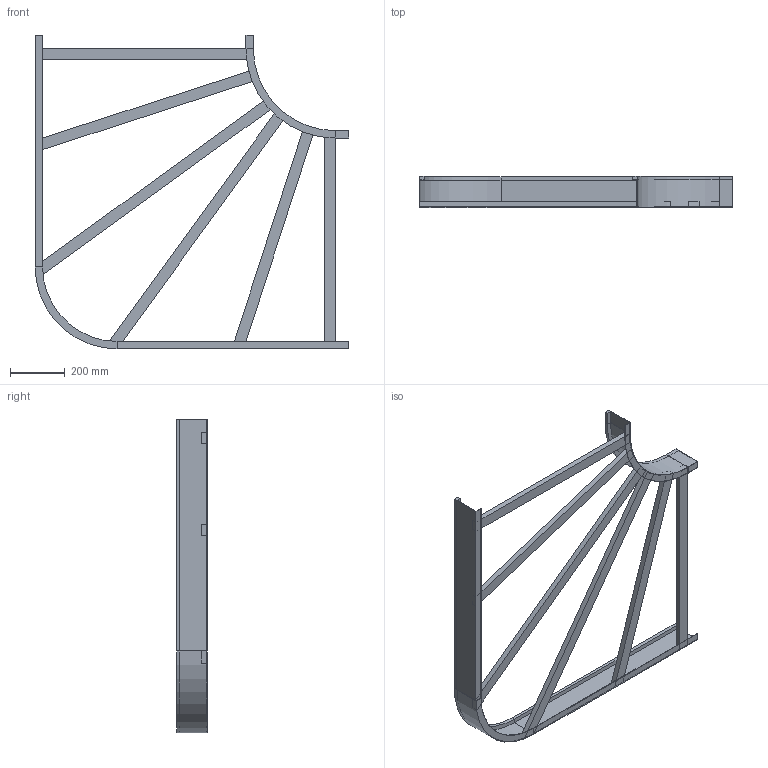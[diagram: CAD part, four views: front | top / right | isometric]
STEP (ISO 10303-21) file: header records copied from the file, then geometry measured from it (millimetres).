
FILE_DESCRIPTION (( 'STEP AP214' ), '1' );
FILE_NAME ('B2_10B3J800.step', '2025-02-21T15:25:29', ( '' ), ( '' ), 'SwSTEP 2.0', 'SolidWorks 2023', '' );
FILE_SCHEMA (( 'AUTOMOTIVE_DESIGN' ));
Length unit declared in the file: millimetre
Products named in the file (6): TRAVERSINO_900_SCANTONATO; TRAVERSINO_800; TRAVERSINO_1130_SCANTONATO; B2_10B3J800; B2_LONGH.INTERNO 90°_H112.5_R300; B2_LONGH.ESTERNO 90°_H112.5_R300+800
Assembly tree (8 placements, depth 2):
  B2_10B3J800
    B2_LONGH.INTERNO 90°_H112.5_R300
    B2_LONGH.ESTERNO 90°_H112.5_R300+800
    TRAVERSINO_800  x2
    TRAVERSINO_900_SCANTONATO  x2
    TRAVERSINO_1130_SCANTONATO  x2
Bounding box: 1150 x 112.5 x 1150 mm (x, y, z)
Volume: 5682000.2 mm3; surface area: 1522329.3 mm2
Topology: 8 solids, 8 shells, 88 faces, 184 edges, 112 vertices
Faces by surface type: plane 80, cylinder 8
Entity records: 2023 total; most frequent: DIRECTION 326, CARTESIAN_POINT 317, ORIENTED_EDGE 296, EDGE_CURVE 148, VECTOR 132, LINE 132, AXIS2_PLACEMENT_3D 97, VERTEX_POINT 88
